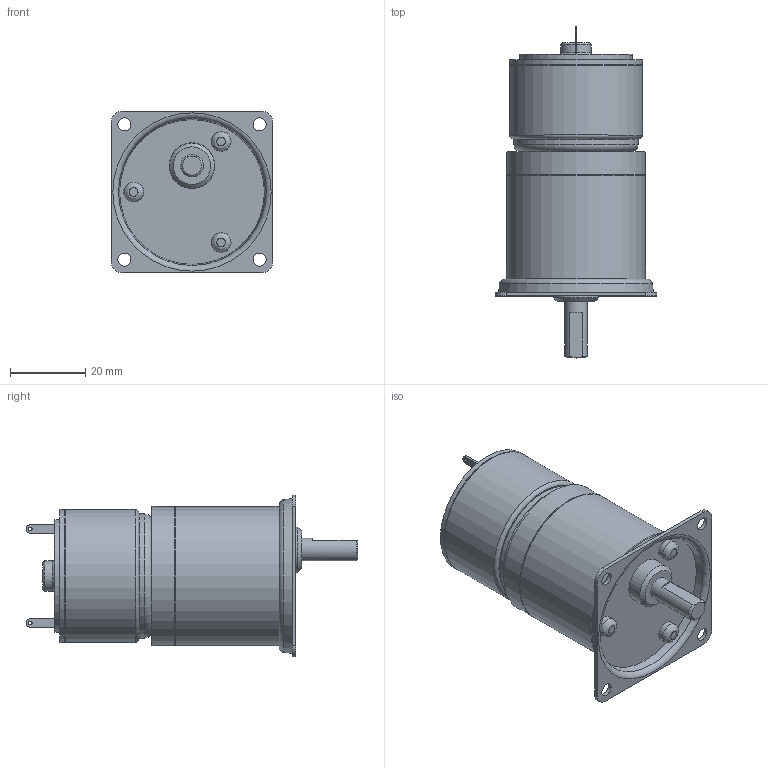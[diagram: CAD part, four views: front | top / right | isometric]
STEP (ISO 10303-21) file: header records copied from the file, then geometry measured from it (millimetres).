
FILE_DESCRIPTION((''),'2;1');
FILE_NAME('C:\Documents and Settings\SSEGAWA\デスクトップ\TP-3526G-PHM-6.STP','2013-07-09T17:45:54',('SSEGAWA'),(''),'Autodesk Inventor 2010','Autodesk Inventor 2010','');
FILE_SCHEMA(('CONFIG_CONTROL_DESIGN'));
Length unit declared in the file: millimetre
Products named in the file (5): tp_3526g_phm_6; phm_6; hm_6; □43; tp_3526g
Assembly tree (4 placements, depth 3):
  tp_3526g_phm_6
    phm_6
      hm_6
      □43
    tp_3526g
Bounding box: 43 x 88.3 x 43 mm (x, y, z)
Volume: 64310.3 mm3; surface area: 16159.9 mm2
Topology: 3 solids, 3 shells, 105 faces, 225 edges, 148 vertices
Faces by surface type: plane 40, cylinder 30, bspline 24, torus 6, cone 5
Full cylindrical faces by diameter (mm): 2 x1, 2.4 x1, 5 x2, 5.3 x3, 6 x1, 8 x1, 10 x1, 12 x1, 12.2 x1, 30 x1, 33 x1, 35 x1, 35.4 x2, 36.6 x1, 37 x2
Entity records: 3045 total; most frequent: CARTESIAN_POINT 963, DIRECTION 431, ORIENTED_EDGE 298, EDGE_LOOP 195, AXIS2_PLACEMENT_3D 194, EDGE_CURVE 149, VERTEX_POINT 126, FACE_OUTER_BOUND 105
